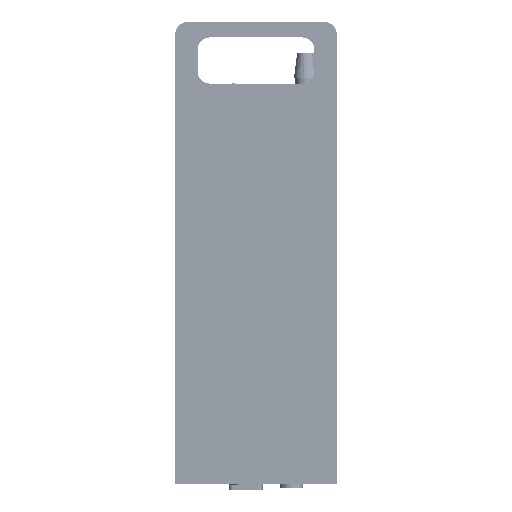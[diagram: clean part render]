
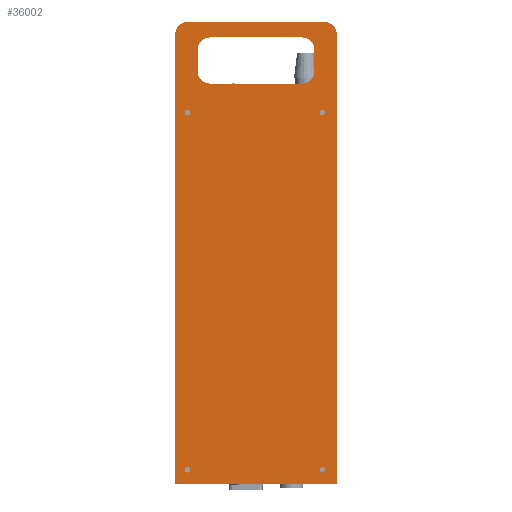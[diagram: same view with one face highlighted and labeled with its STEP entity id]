
A CAD part, left-side view. The second image highlights one B-rep face of the part: STEP entity #36002.
In plain terms, the highlighted planar face has unit normal (-1, 0, 0).
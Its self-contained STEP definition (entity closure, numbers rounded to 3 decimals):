
#3154=FACE_BOUND('',#10499,.F.);
#3155=FACE_BOUND('',#10500,.F.);
#3156=FACE_BOUND('',#10501,.F.);
#3157=FACE_BOUND('',#10502,.F.);
#3158=FACE_BOUND('',#10503,.F.);
#5348=FACE_OUTER_BOUND('',#10504,.F.);
#10499=EDGE_LOOP('',(#22888,#22889));
#10500=EDGE_LOOP('',(#22890,#22891));
#10501=EDGE_LOOP('',(#22892,#22893,#22894,#22895,#22896,#22897,#22898,#22899));
#10502=EDGE_LOOP('',(#22900,#22901));
#10503=EDGE_LOOP('',(#22902,#22903));
#10504=EDGE_LOOP('',(#22904,#22905,#22906,#22907,#22908,#22909,#22910));
#22888=ORIENTED_EDGE('',*,*,#65074,.T.);
#22889=ORIENTED_EDGE('',*,*,#65073,.T.);
#22890=ORIENTED_EDGE('',*,*,#65082,.T.);
#22891=ORIENTED_EDGE('',*,*,#65081,.T.);
#22892=ORIENTED_EDGE('',*,*,#65083,.T.);
#22893=ORIENTED_EDGE('',*,*,#65090,.T.);
#22894=ORIENTED_EDGE('',*,*,#65089,.T.);
#22895=ORIENTED_EDGE('',*,*,#65088,.T.);
#22896=ORIENTED_EDGE('',*,*,#65087,.T.);
#22897=ORIENTED_EDGE('',*,*,#65086,.T.);
#22898=ORIENTED_EDGE('',*,*,#65085,.T.);
#22899=ORIENTED_EDGE('',*,*,#65084,.T.);
#22900=ORIENTED_EDGE('',*,*,#65078,.T.);
#22901=ORIENTED_EDGE('',*,*,#65077,.T.);
#22902=ORIENTED_EDGE('',*,*,#65070,.T.);
#22903=ORIENTED_EDGE('',*,*,#65069,.T.);
#22904=ORIENTED_EDGE('',*,*,#65091,.F.);
#22905=ORIENTED_EDGE('',*,*,#65092,.F.);
#22906=ORIENTED_EDGE('',*,*,#65093,.F.);
#22907=ORIENTED_EDGE('',*,*,#65094,.F.);
#22908=ORIENTED_EDGE('',*,*,#65095,.F.);
#22909=ORIENTED_EDGE('',*,*,#65096,.F.);
#22910=ORIENTED_EDGE('',*,*,#65097,.F.);
#36002=ADVANCED_FACE('',(#3154,#3155,#3156,#3157,#3158,#5348),#39151,.T.);
#39151=PLANE('',#81637);
#45442=LINE('',#116653,#52863);
#45443=LINE('',#116655,#52864);
#45444=LINE('',#116657,#52865);
#45445=LINE('',#116659,#52866);
#45446=LINE('',#116661,#52867);
#45447=LINE('',#116663,#52868);
#45448=LINE('',#116664,#52869);
#45449=LINE('',#116665,#52870);
#45450=LINE('',#116667,#52871);
#52863=VECTOR('',#95144,14.);
#52864=VECTOR('',#95147,60.);
#52865=VECTOR('',#95150,14.);
#52866=VECTOR('',#95153,60.);
#52867=VECTOR('',#95156,85.);
#52868=VECTOR('',#95159,292.);
#52869=VECTOR('',#95160,105.);
#52870=VECTOR('',#95161,292.);
#52871=VECTOR('',#95164,4.);
#59091=CIRCLE('',#81611,1.75);
#59092=CIRCLE('',#81612,1.75);
#59095=CIRCLE('',#81615,1.75);
#59096=CIRCLE('',#81616,1.75);
#59099=CIRCLE('',#81619,1.75);
#59100=CIRCLE('',#81620,1.75);
#59103=CIRCLE('',#81623,1.75);
#59104=CIRCLE('',#81624,1.75);
#59105=CIRCLE('',#81625,8.);
#59106=CIRCLE('',#81626,8.);
#59107=CIRCLE('',#81627,8.);
#59108=CIRCLE('',#81628,8.);
#59109=CIRCLE('',#81629,8.);
#59110=CIRCLE('',#81630,8.);
#65069=EDGE_CURVE('',#73995,#73994,#59091,.T.);
#65070=EDGE_CURVE('',#73994,#73995,#59092,.T.);
#65073=EDGE_CURVE('',#73991,#73990,#59095,.T.);
#65074=EDGE_CURVE('',#73990,#73991,#59096,.T.);
#65077=EDGE_CURVE('',#73987,#73986,#59099,.T.);
#65078=EDGE_CURVE('',#73986,#73987,#59100,.T.);
#65081=EDGE_CURVE('',#73983,#73982,#59103,.T.);
#65082=EDGE_CURVE('',#73982,#73983,#59104,.T.);
#65083=EDGE_CURVE('',#73981,#73980,#45442,.T.);
#65084=EDGE_CURVE('',#73979,#73981,#59105,.T.);
#65085=EDGE_CURVE('',#73978,#73979,#45443,.T.);
#65086=EDGE_CURVE('',#73977,#73978,#59106,.T.);
#65087=EDGE_CURVE('',#73976,#73977,#45444,.T.);
#65088=EDGE_CURVE('',#73975,#73976,#59107,.T.);
#65089=EDGE_CURVE('',#73974,#73975,#45445,.T.);
#65090=EDGE_CURVE('',#73980,#73974,#59108,.T.);
#65091=EDGE_CURVE('',#73973,#73972,#45446,.T.);
#65092=EDGE_CURVE('',#73971,#73973,#59109,.T.);
#65093=EDGE_CURVE('',#73970,#73971,#45447,.T.);
#65094=EDGE_CURVE('',#73969,#73970,#45448,.T.);
#65095=EDGE_CURVE('',#73968,#73969,#45449,.T.);
#65096=EDGE_CURVE('',#73967,#73968,#59110,.T.);
#65097=EDGE_CURVE('',#73972,#73967,#45450,.T.);
#73967=VERTEX_POINT('',#116586);
#73968=VERTEX_POINT('',#116587);
#73969=VERTEX_POINT('',#116588);
#73970=VERTEX_POINT('',#116589);
#73971=VERTEX_POINT('',#116590);
#73972=VERTEX_POINT('',#116591);
#73973=VERTEX_POINT('',#116592);
#73974=VERTEX_POINT('',#116593);
#73975=VERTEX_POINT('',#116594);
#73976=VERTEX_POINT('',#116595);
#73977=VERTEX_POINT('',#116596);
#73978=VERTEX_POINT('',#116597);
#73979=VERTEX_POINT('',#116598);
#73980=VERTEX_POINT('',#116599);
#73981=VERTEX_POINT('',#116600);
#73982=VERTEX_POINT('',#116601);
#73983=VERTEX_POINT('',#116602);
#73986=VERTEX_POINT('',#116605);
#73987=VERTEX_POINT('',#116606);
#73990=VERTEX_POINT('',#116609);
#73991=VERTEX_POINT('',#116610);
#73994=VERTEX_POINT('',#116613);
#73995=VERTEX_POINT('',#116614);
#81611=AXIS2_PLACEMENT_3D('',#116639,#95116,#95117);
#81612=AXIS2_PLACEMENT_3D('',#116640,#95118,#95119);
#81615=AXIS2_PLACEMENT_3D('',#116643,#95124,#95125);
#81616=AXIS2_PLACEMENT_3D('',#116644,#95126,#95127);
#81619=AXIS2_PLACEMENT_3D('',#116647,#95132,#95133);
#81620=AXIS2_PLACEMENT_3D('',#116648,#95134,#95135);
#81623=AXIS2_PLACEMENT_3D('',#116651,#95140,#95141);
#81624=AXIS2_PLACEMENT_3D('',#116652,#95142,#95143);
#81625=AXIS2_PLACEMENT_3D('',#116654,#95145,#95146);
#81626=AXIS2_PLACEMENT_3D('',#116656,#95148,#95149);
#81627=AXIS2_PLACEMENT_3D('',#116658,#95151,#95152);
#81628=AXIS2_PLACEMENT_3D('',#116660,#95154,#95155);
#81629=AXIS2_PLACEMENT_3D('',#116662,#95157,#95158);
#81630=AXIS2_PLACEMENT_3D('',#116666,#95162,#95163);
#81637=AXIS2_PLACEMENT_3D('',#116728,#95231,#95232);
#95116=DIRECTION('',(-1.,0.,0.));
#95117=DIRECTION('',(0.,1.,0.));
#95118=DIRECTION('',(-1.,0.,0.));
#95119=DIRECTION('',(0.,-1.,0.));
#95124=DIRECTION('',(-1.,0.,0.));
#95125=DIRECTION('',(0.,1.,0.));
#95126=DIRECTION('',(-1.,0.,0.));
#95127=DIRECTION('',(0.,-1.,0.));
#95132=DIRECTION('',(-1.,0.,0.));
#95133=DIRECTION('',(0.,1.,0.));
#95134=DIRECTION('',(-1.,0.,0.));
#95135=DIRECTION('',(0.,-1.,0.));
#95140=DIRECTION('',(-1.,0.,0.));
#95141=DIRECTION('',(0.,1.,0.));
#95142=DIRECTION('',(-1.,0.,0.));
#95143=DIRECTION('',(0.,-1.,0.));
#95144=DIRECTION('',(0.,0.,-1.));
#95145=DIRECTION('',(-1.,0.,0.));
#95146=DIRECTION('',(0.,0.,1.));
#95147=DIRECTION('',(0.,1.,0.));
#95148=DIRECTION('',(-1.,0.,0.));
#95149=DIRECTION('',(0.,-1.,0.));
#95150=DIRECTION('',(0.,0.,1.));
#95151=DIRECTION('',(-1.,0.,0.));
#95152=DIRECTION('',(0.,0.,-1.));
#95153=DIRECTION('',(0.,-1.,0.));
#95154=DIRECTION('',(-1.,0.,0.));
#95155=DIRECTION('',(0.,1.,0.));
#95156=DIRECTION('',(0.,1.,0.));
#95157=DIRECTION('',(-1.,0.,0.));
#95158=DIRECTION('',(0.,-1.,0.));
#95159=DIRECTION('',(0.,0.,1.));
#95160=DIRECTION('',(0.,-1.,0.));
#95161=DIRECTION('',(0.,0.,-1.));
#95162=DIRECTION('',(-1.,0.,0.));
#95163=DIRECTION('',(0.,0.,1.));
#95164=DIRECTION('',(0.,1.,0.));
#95231=DIRECTION('',(-1.,0.,0.));
#95232=DIRECTION('',(0.,0.,1.));
#116586=CARTESIAN_POINT('',(-209.,52.5,155.));
#116587=CARTESIAN_POINT('',(-209.,60.5,147.));
#116588=CARTESIAN_POINT('',(-209.,60.5,-145.));
#116589=CARTESIAN_POINT('',(-209.,-44.5,-145.));
#116590=CARTESIAN_POINT('',(-209.,-44.5,147.));
#116591=CARTESIAN_POINT('',(-209.,48.5,155.));
#116592=CARTESIAN_POINT('',(-209.,-36.5,155.));
#116593=CARTESIAN_POINT('',(-209.,38.,115.));
#116594=CARTESIAN_POINT('',(-209.,-22.,115.));
#116595=CARTESIAN_POINT('',(-209.,-30.,123.));
#116596=CARTESIAN_POINT('',(-209.,-30.,137.));
#116597=CARTESIAN_POINT('',(-209.,-22.,145.));
#116598=CARTESIAN_POINT('',(-209.,38.,145.));
#116599=CARTESIAN_POINT('',(-209.,46.,123.));
#116600=CARTESIAN_POINT('',(-209.,46.,137.));
#116601=CARTESIAN_POINT('',(-209.,-36.75,96.));
#116602=CARTESIAN_POINT('',(-209.,-33.25,96.));
#116605=CARTESIAN_POINT('',(-209.,-36.75,-136.));
#116606=CARTESIAN_POINT('',(-209.,-33.25,-136.));
#116609=CARTESIAN_POINT('',(-209.,50.75,96.));
#116610=CARTESIAN_POINT('',(-209.,54.25,96.));
#116613=CARTESIAN_POINT('',(-209.,50.75,-136.));
#116614=CARTESIAN_POINT('',(-209.,54.25,-136.));
#116639=CARTESIAN_POINT('',(-209.,52.5,-136.));
#116640=CARTESIAN_POINT('',(-209.,52.5,-136.));
#116643=CARTESIAN_POINT('',(-209.,52.5,96.));
#116644=CARTESIAN_POINT('',(-209.,52.5,96.));
#116647=CARTESIAN_POINT('',(-209.,-35.,-136.));
#116648=CARTESIAN_POINT('',(-209.,-35.,-136.));
#116651=CARTESIAN_POINT('',(-209.,-35.,96.));
#116652=CARTESIAN_POINT('',(-209.,-35.,96.));
#116653=CARTESIAN_POINT('',(-209.,46.,137.));
#116654=CARTESIAN_POINT('',(-209.,38.,137.));
#116655=CARTESIAN_POINT('',(-209.,-22.,145.));
#116656=CARTESIAN_POINT('',(-209.,-22.,137.));
#116657=CARTESIAN_POINT('',(-209.,-30.,123.));
#116658=CARTESIAN_POINT('',(-209.,-22.,123.));
#116659=CARTESIAN_POINT('',(-209.,38.,115.));
#116660=CARTESIAN_POINT('',(-209.,38.,123.));
#116661=CARTESIAN_POINT('',(-209.,-36.5,155.));
#116662=CARTESIAN_POINT('',(-209.,-36.5,147.));
#116663=CARTESIAN_POINT('',(-209.,-44.5,-145.));
#116664=CARTESIAN_POINT('',(-209.,60.5,-145.));
#116665=CARTESIAN_POINT('',(-209.,60.5,147.));
#116666=CARTESIAN_POINT('',(-209.,52.5,147.));
#116667=CARTESIAN_POINT('',(-209.,48.5,155.));
#116728=CARTESIAN_POINT('',(-209.,-47.5,-148.));
